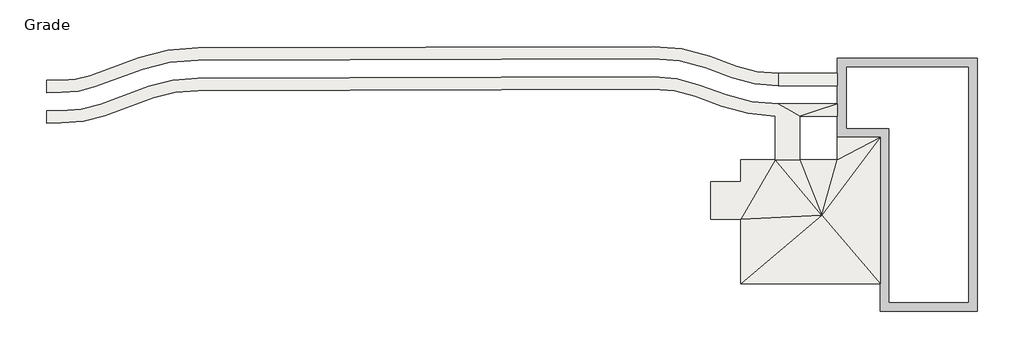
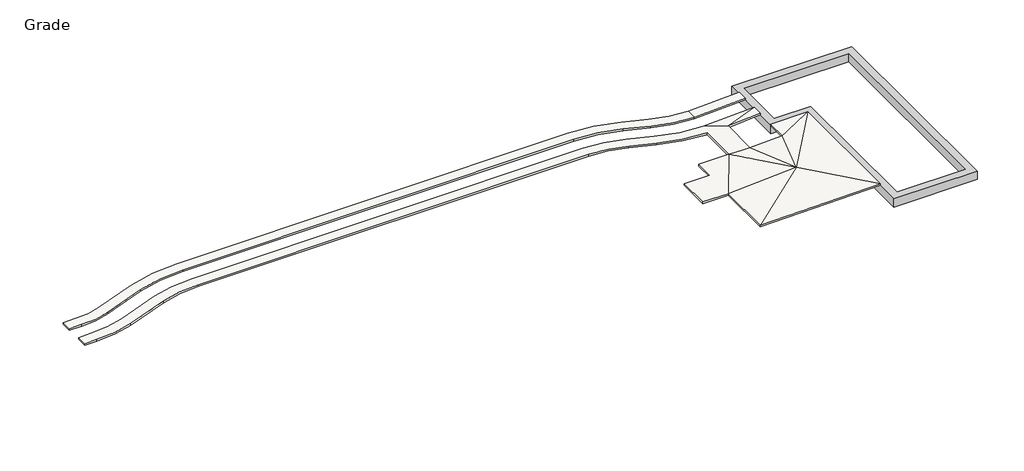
# One storey: 1 proxy, 1 slab.
"""IFC4 building model written with IfcOpenShell, lengths in millimetres."""

from ifc_helpers import new_model, si_unit, frame, origin, place, context, project, spatial, polyline, circle_curve, faceted_brep, element, save
from ifc_brep_helpers import plane_surface, cylinder_surface, revolved_surface, advanced_brep

model = new_model("IFC4")

# Units and contexts
model_context = context("Model", 3, world=origin())
ifc_project = project(units=[si_unit("LENGTHUNIT", "METRE", prefix="MILLI")], contexts=[model_context])

# Site, building, storey
site = spatial("IfcSite", under=ifc_project)
building = spatial("IfcBuilding", under=site)
storey = spatial("IfcBuildingStorey", under=building, Name="Grade", Elevation=-152.4)

# Proxy
placement = place(None, origin())
element("IfcBuildingElementProxy", 1, Name="New", ObjectType="New", at=placement, inside=storey, context=model_context, shape_type="Brep", body=[
    faceted_brep([(17362.5750833, 15955.0499284, -609.6), (10352.1750833, 15955.0499284, -609.6), (10352.1750833, 15955.0499284, -101.6), (17362.5750833, 15955.0499284, -101.6), (10809.3750833, 15497.8499284, -609.6), (16905.3750833, 15497.8499284, -609.6), (16905.3750833, 15497.8499284, -101.6), (10809.3750833, 15497.8499284, -101.6), (10352.1750833, 11992.6499284, -101.6), (12485.7750833, 11992.6499284, -101.6), (12485.7750833, 3280.4499284, -101.6), (17362.5750833, 3280.4499284, -101.6), (16905.3750833, 3737.6499284, -101.6), (12942.9750833, 3737.6499284, -101.6), (12942.9750833, 12449.8499284, -101.6), (10809.3750833, 12449.8499284, -101.6), (17362.5750833, 3280.4499284, -609.6), (16905.3750833, 3737.6499284, -609.6), (12485.7750833, 3280.4499284, -609.6), (12942.9750833, 3737.6499284, -609.6), (12485.7750833, 11992.6499284, -609.6), (12942.9750833, 12449.8499284, -609.6), (10352.1750833, 11992.6499284, -609.6), (10809.3750833, 12449.8499284, -609.6)], [[[0, 1, 2, 3]], [[4, 5, 6, 7]], [[0, 5, 4, 1]], [[3, 2, 8, 9, 10, 11], [7, 6, 12, 13, 14, 15]], [[16, 0, 3, 11]], [[5, 17, 12, 6]], [[5, 0, 16, 17]], [[18, 16, 11, 10]], [[17, 19, 13, 12]], [[17, 16, 18, 19]], [[20, 18, 10, 9]], [[19, 21, 14, 13]], [[19, 18, 20, 21]], [[22, 20, 9, 8]], [[21, 23, 15, 14]], [[21, 20, 22, 23]], [[1, 22, 8, 2]], [[23, 4, 7, 15]], [[23, 22, 1, 4]]]),
])

# Slab
element("IfcSlab", 2, ObjectType="Brick", at=placement, inside=storey, context=model_context, shape_type="AdvancedBrep", body=[
    advanced_brep(
    [(8464.7010833, 10866.5409284, -227.9904), (8464.7010833, 10866.5409284, -126.3904), (10345.8250833, 10866.5409284, -50.1904), (10345.8250833, 10866.5409284, -151.7904), (12485.7750833, 11992.6499284, -101.6), (12485.7750833, 11992.6499284, 0.0), (12485.7750833, 4667.5185284, 0.0), (12485.7750833, 4667.5185284, -101.6), (5499.9809408, 4667.5185284, -126.3904), (5499.9809408, 4667.5185284, -227.9904), (5499.9809408, 7899.8344171, -126.3904), (5499.9809408, 7899.8344171, -227.9904), (4015.6049408, 7899.8344171, -126.3904), (4015.6049408, 7899.8344171, -227.9904), (4015.6049408, 9766.7344171, -126.3904), (4015.6049408, 9766.7344171, -227.9904), (5499.9809408, 9766.7344171, -126.3904), (5499.9809408, 9766.7344171, -227.9904), (5499.9809408, 10866.5409284, -126.3904), (5499.9809408, 10866.5409284, -227.9904), (7245.5010833, 10866.5409284, -126.3904), (7245.5010833, 10866.5409284, -227.9904), (4560.69318, 13555.7555364, -227.9904), (4560.69318, 13555.7555364, -126.3904), (3227.5843071, 14040.9674851, -126.3904), (3227.5843071, 14040.9674851, -227.9904), (1123.669369, 14408.5717833, -126.3904), (1123.669369, 14408.5717833, -227.9904), (-21699.4882094, 14337.585488, -126.3904), (-21699.4882094, 14337.585488, -227.9904), (-23927.4227501, 13971.3443166, -126.3904), (-23927.4227501, 13971.3443166, -227.9904), (-26349.890257, 13086.1914593, -126.3904), (-26349.890257, 13086.1914593, -227.9904), (-28532.4140391, 12719.3385416, -126.3904), (-28532.4140391, 12719.3385416, -227.9904), (-28532.4140391, 13329.0253175, -227.9904), (-28532.4140391, 13329.0253175, -126.3904), (-26558.3857364, 13659.028081, -126.3904), (-26558.3857364, 13659.028081, -227.9904), (-24135.9184843, 14544.1811249, -126.3904), (-24135.9184843, 14544.1811249, -227.9904), (-21693.526179, 14947.2069801, -126.3904), (-21693.526179, 14947.2069801, -227.9904), (1121.7733546, 15018.1688347, -126.3904), (1121.7733546, 15018.1688347, -227.9904), (3436.0797865, 14613.8041068, -126.3904), (3436.0797865, 14613.8041068, -227.9904), (4769.1886594, 14128.592158, -126.3904), (4769.1886594, 14128.592158, -227.9904), (8464.7010833, 13059.4499284, -227.9904), (8464.7010833, 13059.4499284, -126.3904), (9567.5823666, 8100.9264999, -50.1904), (9567.5823666, 8100.9264999, -151.7904), (7245.5010833, 13060.4748958, -126.3904), (7245.5010833, 13060.4748958, -227.9904), (7375.3821515, 13669.0499284, -126.3904), (7375.3821515, 13669.0499284, -227.9904), (10352.1750833, 13669.0499284, -3.35915), (10352.1750833, 13669.0499284, -104.95915), (10352.1750833, 13059.4499284, -3.35915), (10352.1750833, 13059.4499284, -104.95915), (-29251.9330341, 13321.8860898, -126.3904), (-29245.8841816, 12712.2593319, -126.3904), (-29245.8841816, 12712.2593319, -227.9904), (-29251.9330341, 13321.8860898, -227.9904), (10345.8250833, 11992.6499284, -33.8193062), (10345.8250833, 11992.6499284, -135.4193062)],
    [
        (0, 1),
        (1, 2),
        (2, 3),
        (3, 0),
        (4, 5),
        (5, 6),
        (6, 7),
        (7, 4),
        (6, 8),
        (8, 9),
        (9, 7),
        (8, 10),
        (10, 11),
        (11, 9),
        (10, 12),
        (12, 13),
        (13, 11),
        (12, 14),
        (14, 15),
        (15, 13),
        (14, 16),
        (16, 17),
        (17, 15),
        (16, 18),
        (18, 19),
        (19, 17),
        (18, 20),
        (20, 21),
        (21, 19),
        (22, 23),
        (23, 24),
        (24, 25),
        (25, 22),
        (24, 26, circle_curve(frame((1142.6295134, 8312.6012688, -126.3904), z_axis=(0.0, 0.0, 1.0), x_axis=(1.0, 0.0, 0.0)), 6096.0)),
        (26, 27),
        (27, 25, circle_curve(frame((1142.6295134, 8312.6012688, -227.9904), z_axis=(0.0, 0.0, -1.0), x_axis=(1.0, 0.0, 0.0)), 6096.0)),
        (26, 28),
        (28, 29),
        (29, 27),
        (28, 30, circle_curve(frame((-21841.4516122, 8241.5278565, -126.3904), z_axis=(0.0, 0.0, 1.0), x_axis=(1.0, 0.0, 0.0)), 6097.7104109)),
        (30, 31),
        (31, 29, circle_curve(frame((-21841.4516122, 8241.5278565, -227.9904), z_axis=(0.0, 0.0, -1.0), x_axis=(1.0, 0.0, 0.0)), 6097.7104109)),
        (30, 32),
        (32, 33),
        (33, 31),
        (32, 34, circle_curve(frame((-28434.8450507, 18814.5576757, -126.3904), z_axis=(0.0, 0.0, -1.0), x_axis=(1.0, 0.0, 0.0)), 6096.0)),
        (34, 35),
        (35, 33, circle_curve(frame((-28434.8450507, 18814.5576757, -227.9904), z_axis=(0.0, 0.0, 1.0), x_axis=(1.0, 0.0, 0.0)), 6096.0)),
        (36, 37),
        (37, 38, circle_curve(frame((-28434.8450507, 18814.5576757, -126.3904), z_axis=(0.0, 0.0, 1.0), x_axis=(1.0, 0.0, 0.0)), 5486.4)),
        (38, 39),
        (39, 36, circle_curve(frame((-28434.8450507, 18814.5576757, -227.9904), z_axis=(0.0, 0.0, -1.0), x_axis=(1.0, 0.0, 0.0)), 5486.4)),
        (38, 40),
        (40, 41),
        (41, 39),
        (40, 42, circle_curve(frame((-21841.4520296, 8241.5278972, -126.3904), z_axis=(0.0, 0.0, -1.0), x_axis=(1.0, 0.0, 0.0)), 6707.3104908)),
        (42, 43),
        (43, 41, circle_curve(frame((-21841.4520296, 8241.5278972, -227.9904), z_axis=(0.0, 0.0, 1.0), x_axis=(1.0, 0.0, 0.0)), 6707.3104908)),
        (42, 44),
        (44, 45),
        (45, 43),
        (44, 46, circle_curve(frame((1142.6295134, 8312.6012688, -126.3904), z_axis=(0.0, 0.0, -1.0), x_axis=(1.0, 0.0, 0.0)), 6705.6)),
        (46, 47),
        (47, 45, circle_curve(frame((1142.6295134, 8312.6012688, -227.9904), z_axis=(0.0, 0.0, 1.0), x_axis=(1.0, 0.0, 0.0)), 6705.6)),
        (46, 48),
        (48, 49),
        (49, 47),
        (50, 51),
        (51, 1),
        (0, 50),
        (8, 52),
        (52, 10),
        (11, 53),
        (53, 9),
        (20, 54),
        (54, 55),
        (55, 21),
        (54, 23, circle_curve(frame((7375.3821515, 21289.0499284, -126.3904), z_axis=(0.0, 0.0, -1.0), x_axis=(1.0, 0.0, 0.0)), 8229.6)),
        (22, 55, circle_curve(frame((7375.3821515, 21289.0499284, -227.9904), z_axis=(0.0, 0.0, 1.0), x_axis=(1.0, 0.0, 0.0)), 8229.6)),
        (48, 56, circle_curve(frame((7375.3821515, 21289.0499284, -126.3904), z_axis=(0.0, 0.0, 1.0), x_axis=(1.0, 0.0, 0.0)), 7620.0)),
        (56, 57),
        (57, 49, circle_curve(frame((7375.3821515, 21289.0499284, -227.9904), z_axis=(0.0, 0.0, -1.0), x_axis=(1.0, 0.0, 0.0)), 7620.0)),
        (56, 58),
        (58, 59),
        (59, 57),
        (58, 60),
        (60, 61),
        (61, 59),
        (60, 51),
        (50, 61),
        (37, 62),
        (62, 63),
        (63, 34),
        (20, 1),
        (51, 56),
        (57, 50),
        (0, 21),
        (35, 64),
        (64, 65),
        (65, 36),
        (58, 51),
        (50, 59),
        (63, 64),
        (62, 65),
        (2, 66),
        (66, 67),
        (67, 3),
        (66, 5),
        (4, 67),
        (2, 5),
        (4, 3),
        (10, 20),
        (20, 52),
        (52, 1),
        (2, 52),
        (52, 5),
        (21, 11),
        (0, 53),
        (53, 21),
        (4, 53),
        (53, 3),
        (6, 52),
        (53, 7),
    ],
    [
        plane_surface(frame((8464.7010833, 10866.5409284, -227.9904), z_axis=(0.0, 1.0, 0.0), x_axis=(0.0, 0.0, 1.0))),
        plane_surface(frame((12485.7750833, 11992.6499284, -227.9904), z_axis=(1.0, 0.0, 0.0), x_axis=(0.0, 0.0, 1.0))),
        plane_surface(frame((12485.7750833, 4667.5185284, -227.9904), z_axis=(0.0, -1.0, 0.0), x_axis=(0.0, 0.0, 1.0))),
        plane_surface(frame((5499.9809408, 4667.5185284, -227.9904), z_axis=(-1.0, 0.0, 0.0), x_axis=(0.0, 0.0, 1.0))),
        plane_surface(frame((5499.9809408, 7899.8344171, -227.9904), z_axis=(0.0, -1.0, 0.0), x_axis=(0.0, 0.0, 1.0))),
        plane_surface(frame((4015.6049408, 7899.8344171, -227.9904), z_axis=(-1.0, 0.0, 0.0), x_axis=(0.0, 0.0, 1.0))),
        plane_surface(frame((4015.6049408, 9766.7344171, -227.9904), z_axis=(0.0, 1.0, 0.0), x_axis=(0.0, 0.0, 1.0))),
        plane_surface(frame((5499.9809408, 9766.7344171, -227.9904), z_axis=(-1.0, 0.0, 0.0), x_axis=(0.0, 0.0, 1.0))),
        plane_surface(frame((5499.9809408, 10866.5409284, -227.9904), z_axis=(0.0, 1.0, 0.0), x_axis=(0.0, 0.0, 1.0))),
        plane_surface(frame((4560.69318, 13555.7555364, -227.9904), z_axis=(-0.34202014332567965, -0.9396926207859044, 0.0), x_axis=(0.0, 0.0, 1.0))),
        revolved_surface(polyline([(7238.6295134, 8312.6012688, -126.3904), (7238.6295134, 8312.6012688, -227.9904)]), (1142.6295134, 8312.6012688, -126.3904), (0.0, 0.0, 1.0)),
        plane_surface(frame((1123.669369, 14408.5717833, -227.9904), z_axis=(0.003110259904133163, -0.9999951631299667, 0.0), x_axis=(0.0, 0.0, 1.0))),
        revolved_surface(polyline([(-15743.7412013, 8241.5278565, -126.3904), (-15743.7412013, 8241.5278565, -227.9904)]), (-21841.4516122, 8241.5278565, -126.3904), (0.0, 0.0, 1.0)),
        plane_surface(frame((-23927.4227501, 13971.3443166, -227.9904), z_axis=(0.3431999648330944, -0.939262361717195, 0.0), x_axis=(0.0, 0.0, 1.0))),
        cylinder_surface(frame((-28434.8450507, 18814.5576757, -126.3904), z_axis=(0.0, 0.0, -1.0), x_axis=(1.0, 0.0, 0.0)), 6096.0),
        revolved_surface(polyline([(-22948.4450507, 18814.5576757, -126.3904), (-22948.4450507, 18814.5576757, -227.9904)]), (-28434.8450507, 18814.5576757, -126.3904), (0.0, 0.0, 1.0)),
        plane_surface(frame((-26558.3857364, 13659.028081, -227.9904), z_axis=(-0.343200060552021, 0.9392623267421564, 0.0), x_axis=(0.0, 0.0, 1.0))),
        cylinder_surface(frame((-21841.4520296, 8241.5278972, -126.3904), z_axis=(0.0, 0.0, -1.0), x_axis=(1.0, 0.0, 0.0)), 6707.3104908),
        plane_surface(frame((-21693.526179, 14947.2069801, -227.9904), z_axis=(-0.003110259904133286, 0.9999951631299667, 0.0), x_axis=(0.0, 0.0, 1.0))),
        cylinder_surface(frame((1142.6295134, 8312.6012688, -126.3904), z_axis=(0.0, 0.0, -1.0), x_axis=(1.0, 0.0, 0.0)), 6705.6),
        plane_surface(frame((3436.0797865, 14613.8041068, -227.9904), z_axis=(0.34202014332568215, 0.9396926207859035, 0.0), x_axis=(0.0, 0.0, 1.0))),
        plane_surface(frame((8464.7010833, 13059.4499284, -227.9904), z_axis=(1.0, 0.0, 0.0), x_axis=(0.0, 0.0, 1.0))),
        plane_surface(frame((6855.8480827, 6889.4264818, -100.9904), z_axis=(-0.01873011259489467, 0.0, 0.999824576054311), x_axis=(0.0, -1.0, 0.0))),
        plane_surface(frame((6855.8480827, 6889.4264818, -202.5904), z_axis=(0.01873011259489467, 0.0, -0.999824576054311), x_axis=(0.0, -1.0, 0.0))),
        plane_surface(frame((7245.5010833, 10866.5409284, -227.9904), z_axis=(-1.0, 0.0, 0.0), x_axis=(0.0, 0.0, 1.0))),
        cylinder_surface(frame((7375.3821515, 21289.0499284, -126.3904), z_axis=(0.0, 0.0, -1.0), x_axis=(1.0, 0.0, 0.0)), 8229.6),
        revolved_surface(polyline([(14995.3821515, 21289.0499284, -126.3904), (14995.3821515, 21289.0499284, -227.9904)]), (7375.3821515, 21289.0499284, -126.3904), (0.0, 0.0, 1.0)),
        plane_surface(frame((7375.3821515, 13669.0499284, -227.9904), z_axis=(0.0, 1.0, 0.0), x_axis=(0.0, 0.0, 1.0))),
        plane_surface(frame((10352.1750833, 13669.0499284, -227.9904), z_axis=(1.0, 0.0, 0.0), x_axis=(0.0, 0.0, 1.0))),
        plane_surface(frame((10352.1750833, 13059.4499284, -227.9904), z_axis=(0.0, -1.0, 0.0), x_axis=(0.0, 0.0, 1.0))),
        plane_surface(frame((-9661.5477033, 13519.8077735, -126.3904), z_axis=(0.0, 0.0, 1.0), x_axis=(1.0, 0.0, 0.0))),
        plane_surface(frame((-9661.5477033, 13519.8077735, -227.9904), z_axis=(0.0, 0.0, -1.0), x_axis=(1.0, 0.0, 0.0))),
        plane_surface(frame((9723.0170833, 13262.6499284, -44.3695667), z_axis=(-0.06504498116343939, 0.0, 0.997882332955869), x_axis=(0.997882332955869, 0.0, 0.06504498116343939))),
        plane_surface(frame((8730.7527727, 13465.8499284, -85.3799833), z_axis=(-0.041182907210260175, -0.07359140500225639, 0.9964377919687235), x_axis=(0.949774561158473, 0.30674995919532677, 0.06190917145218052))),
        plane_surface(frame((9723.0170833, 13262.6499284, -145.9695667), z_axis=(0.06504498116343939, 0.0, -0.997882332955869), x_axis=(0.997882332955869, 0.0, 0.06504498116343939))),
        plane_surface(frame((8730.7527727, 13465.8499284, -186.9799833), z_axis=(0.041182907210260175, 0.07359140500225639, -0.9964377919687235), x_axis=(0.949774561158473, 0.30674995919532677, 0.06190917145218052))),
        plane_surface(frame((-28532.4140391, 12719.3385416, -227.9904), z_axis=(0.009921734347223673, -0.9999507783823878, 0.0), x_axis=(0.0, 0.0, 1.0))),
        plane_surface(frame((-29245.8841816, 12712.2593319, -227.9904), z_axis=(-0.9999507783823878, -0.009921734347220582, 0.0), x_axis=(0.0, 0.0, 1.0))),
        plane_surface(frame((-29251.9330341, 13321.8860898, -227.9904), z_axis=(-0.009921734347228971, 0.9999507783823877, 0.0), x_axis=(0.0, 0.0, 1.0))),
        plane_surface(frame((10345.8250833, 10866.5409284, -227.9904), z_axis=(-1.0, 0.0, 0.0), x_axis=(0.0, 0.0, 1.0))),
        plane_surface(frame((10345.8250833, 11992.6499284, -227.9904), z_axis=(0.0, 1.0, 0.0), x_axis=(0.0, 0.0, 1.0))),
        plane_surface(frame((11059.1417499, 11617.2802617, -28.0032354), z_axis=(-0.01580014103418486, -0.014534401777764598, 0.9997695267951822), x_axis=(-0.9998751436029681, 0.0, -0.01580181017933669))),
        plane_surface(frame((11059.1417499, 11617.2802617, -129.6032354), z_axis=(0.01580014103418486, 0.014534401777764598, -0.9997695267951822), x_axis=(-0.9998751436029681, 0.0, -0.01580181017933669))),
        plane_surface(frame((5296.1089646, 9511.0365875, -126.3904), z_axis=(0.0, 0.0, 1.0), x_axis=(0.0, -1.0, 0.0))),
        plane_surface(frame((8425.9281777, 9944.6694522, -100.9904), z_axis=(0.0, 0.027542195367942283, 0.9996206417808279), x_axis=(-1.0, 0.0, 0.0))),
        plane_surface(frame((7437.6881302, 8955.7672818, -100.9904), z_axis=(-0.01928979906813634, 0.011349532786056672, 0.9997495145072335), x_axis=(0.9986054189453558, 0.04936856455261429, 0.018707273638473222))),
        plane_surface(frame((10799.727511, 10320.0391189, -33.4602667), z_axis=(-0.027519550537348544, 0.007743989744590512, 0.9995912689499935), x_axis=(-0.8847584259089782, -0.46558771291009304, -0.020751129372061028))),
        plane_surface(frame((5296.1089646, 9511.0365875, -227.9904), z_axis=(0.0, 0.0, -1.0), x_axis=(0.0, -1.0, 0.0))),
        plane_surface(frame((8425.9281777, 9944.6694522, -202.5904), z_axis=(0.0, -0.027542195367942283, -0.9996206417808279), x_axis=(-1.0, 0.0, 0.0))),
        plane_surface(frame((7437.6881302, 8955.7672818, -202.5904), z_axis=(0.01928979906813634, -0.011349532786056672, -0.9997495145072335), x_axis=(0.9986054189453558, 0.04936856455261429, 0.018707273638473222))),
        plane_surface(frame((10799.727511, 10320.0391189, -135.0602667), z_axis=(0.027519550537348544, -0.007743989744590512, -0.9995912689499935), x_axis=(-0.8847584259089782, -0.46558771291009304, -0.020751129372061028))),
        plane_surface(frame((9459.369511, 9944.6694522, -75.5904), z_axis=(-0.0404718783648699, 0.011388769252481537, 0.9991157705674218), x_axis=(0.3702950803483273, -0.9285617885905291, 0.025584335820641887))),
        plane_surface(frame((9459.369511, 9944.6694522, -177.1904), z_axis=(0.0404718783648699, -0.011388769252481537, -0.9991157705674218), x_axis=(0.3702950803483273, -0.9285617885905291, 0.025584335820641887))),
        plane_surface(frame((9184.4461302, 5811.9878522, -58.8602667), z_axis=(-0.018089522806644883, -0.0007591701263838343, 0.9998360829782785), x_axis=(0.9998363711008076, 0.0, 0.018089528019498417))),
        plane_surface(frame((11513.0441777, 8253.6983189, -16.7301333), z_axis=(-0.017196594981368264, 0.0, 0.9998521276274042), x_axis=(0.0, 1.0, 0.0))),
        plane_surface(frame((9184.4461302, 5811.9878522, -160.4602667), z_axis=(0.018089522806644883, 0.0007591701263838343, -0.9998360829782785), x_axis=(0.9998363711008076, 0.0, 0.018089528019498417))),
        plane_surface(frame((11513.0441777, 8253.6983189, -118.3301333), z_axis=(0.017196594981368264, 0.0, -0.9998521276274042), x_axis=(0.0, 1.0, 0.0))),
    ],
    [
        (0, [[1, 2, 3, 4]]),
        (1, [[5, 6, 7, 8]]),
        (2, [[-7, 9, 10, 11]]),
        (3, [[-10, 12, 13, 14]]),
        (4, [[-13, 15, 16, 17]]),
        (5, [[-16, 18, 19, 20]]),
        (6, [[-19, 21, 22, 23]]),
        (7, [[-22, 24, 25, 26]]),
        (8, [[-25, 27, 28, 29]]),
        (9, [[30, 31, 32, 33]]),
        (10, [[-32, 34, 35, 36]]),
        (11, [[-35, 37, 38, 39]]),
        (12, [[-38, 40, 41, 42]]),
        (13, [[-41, 43, 44, 45]]),
        (14, [[-44, 46, 47, 48]]),
        (15, [[49, 50, 51, 52]]),
        (16, [[-51, 53, 54, 55]]),
        (17, [[-54, 56, 57, 58]]),
        (18, [[-57, 59, 60, 61]]),
        (19, [[-60, 62, 63, 64]]),
        (20, [[-63, 65, 66, 67]]),
        (21, [[68, 69, -1, 70]]),
        (22, [[-12, 71, 72]]),
        (23, [[73, 74, -14]]),
        (24, [[-28, 75, 76, 77]]),
        (25, [[-76, 78, -30, 79]]),
        (26, [[-66, 80, 81, 82]]),
        (27, [[-81, 83, 84, 85]]),
        (28, [[-84, 86, 87, 88]]),
        (29, [[-87, 89, -68, 90]]),
        (30, [[-62, -59, -56, -53, -50, 91, 92, 93, -46, -43, -40, -37, -34, -31, -78, -75, 94, -69, 95, -80, -65]]),
        (31, [[-67, -82, 96, -70, 97, -77, -79, -33, -36, -39, -42, -45, -48, 98, 99, 100, -52, -55, -58, -61, -64]]),
        (32, [[-89, -86, 101]]),
        (33, [[-101, -83, -95]]),
        (34, [[102, -88, -90]]),
        (35, [[-96, -85, -102]]),
        (36, [[-47, -93, 103, -98]]),
        (37, [[-103, -92, 104, -99]]),
        (38, [[-104, -91, -49, -100]]),
        (39, [[-3, 105, 106, 107]]),
        (40, [[-106, 108, -5, 109]]),
        (41, [[-108, -105, 110]]),
        (42, [[111, -107, -109]]),
        (43, [[-24, -21, -18, -15, 112, -27]]),
        (44, [[-94, 113, 114]]),
        (45, [[-72, -113, -112]]),
        (46, [[-110, 115, 116]]),
        (47, [[-29, 117, -17, -20, -23, -26]]),
        (48, [[118, 119, -97]]),
        (49, [[-117, -119, -73]]),
        (50, [[120, 121, -111]]),
        (51, [[-114, -115, -2]]),
        (52, [[-4, -121, -118]]),
        (53, [[-9, 122, -71]]),
        (54, [[-6, -116, -122]]),
        (55, [[-74, 123, -11]]),
        (56, [[-123, -120, -8]]),
    ],
),
    advanced_brep(
    [(10352.1750833, 15193.0499284, -104.95915), (10352.1750833, 15193.0499284, -3.35915), (10352.1750833, 14583.4499284, -3.35915), (10352.1750833, 14583.4499284, -104.95915), (1117.0333185, 16542.1614633, -227.9904), (1117.0333185, 16542.1614633, -126.3904), (3957.3184849, 16045.8956609, -126.3904), (3957.3184849, 16045.8956609, -227.9904), (5290.4273578, 15560.6837121, -126.3904), (5290.4273578, 15560.6837121, -227.9904), (5081.9318784, 14987.8470905, -227.9904), (5081.9318784, 14987.8470905, -126.3904), (3748.8230056, 15473.0590392, -126.3904), (3748.8230056, 15473.0590392, -227.9904), (1118.9293329, 15932.5644119, -126.3904), (1118.9293329, 15932.5644119, -227.9904), (-21685.2251114, 15861.6372216, -126.3904), (-21685.2251114, 15861.6372216, -227.9904), (-24448.6620271, 15403.4362932, -126.3904), (-24448.6620271, 15403.4362932, -227.9904), (-26871.1289554, 14518.2830134, -126.3904), (-26871.1289554, 14518.2830134, -227.9904), (-28532.4140391, 14243.5988821, -126.3904), (-28532.4140391, 14243.5988821, -227.9904), (-28532.4140391, 14853.359113, -227.9904), (-28532.4140391, 14853.359113, -126.3904), (-27079.6244348, 15091.1196351, -126.3904), (-27079.6244348, 15091.1196351, -227.9904), (-24657.157692, 15976.2730492, -126.3904), (-24657.157692, 15976.2730492, -227.9904), (-21680.0595525, 16471.2562365, -126.3904), (-21680.0595525, 16471.2562365, -227.9904), (-29267.085881, 14846.0695354, -126.3904), (-29261.0362998, 14236.3693297, -126.3904), (7375.3821515, 14583.4499284, -126.3904), (7375.3821515, 15193.0499284, -126.3904), (7375.3821515, 15193.0499284, -227.9904), (7375.3821515, 14583.4499284, -227.9904), (-29261.0362998, 14236.3693297, -227.9904), (-29267.085881, 14846.0695354, -227.9904)],
    [
        (0, 1),
        (1, 2),
        (2, 3),
        (3, 0),
        (4, 5),
        (5, 6, circle_curve(frame((1142.6295134, 8312.6012688, -126.3904), z_axis=(0.0, 0.0, -1.0), x_axis=(1.0, 0.0, 0.0)), 8229.6)),
        (6, 7),
        (7, 4, circle_curve(frame((1142.6295134, 8312.6012688, -227.9904), z_axis=(0.0, 0.0, 1.0), x_axis=(1.0, 0.0, 0.0)), 8229.6)),
        (6, 8),
        (8, 9),
        (9, 7),
        (10, 11),
        (11, 12),
        (12, 13),
        (13, 10),
        (12, 14, circle_curve(frame((1142.6295134, 8312.6012688, -126.3904), z_axis=(0.0, 0.0, 1.0), x_axis=(1.0, 0.0, 0.0)), 7620.0)),
        (14, 15),
        (15, 13, circle_curve(frame((1142.6295134, 8312.6012688, -227.9904), z_axis=(0.0, 0.0, -1.0), x_axis=(1.0, 0.0, 0.0)), 7620.0)),
        (14, 16),
        (16, 17),
        (17, 15),
        (16, 18, circle_curve(frame((-21841.452559, 8241.5279488, -126.3904), z_axis=(0.0, 0.0, 1.0), x_axis=(1.0, 0.0, 0.0)), 7621.7105918)),
        (18, 19),
        (19, 17, circle_curve(frame((-21841.452559, 8241.5279488, -227.9904), z_axis=(0.0, 0.0, -1.0), x_axis=(1.0, 0.0, 0.0)), 7621.7105918)),
        (18, 20),
        (20, 21),
        (21, 19),
        (20, 22, circle_curve(frame((-28434.8450507, 18814.5576757, -126.3904), z_axis=(0.0, 0.0, -1.0), x_axis=(1.0, 0.0, 0.0)), 4572.0)),
        (22, 23),
        (23, 21, circle_curve(frame((-28434.8450507, 18814.5576757, -227.9904), z_axis=(0.0, 0.0, 1.0), x_axis=(1.0, 0.0, 0.0)), 4572.0)),
        (24, 25),
        (25, 26, circle_curve(frame((-28434.8450507, 18814.5576757, -126.3904), z_axis=(0.0, 0.0, 1.0), x_axis=(1.0, 0.0, 0.0)), 3962.4)),
        (26, 27),
        (27, 24, circle_curve(frame((-28434.8450507, 18814.5576757, -227.9904), z_axis=(0.0, 0.0, -1.0), x_axis=(1.0, 0.0, 0.0)), 3962.4)),
        (26, 28),
        (28, 29),
        (29, 27),
        (28, 30, circle_curve(frame((-21841.4528617, 8241.5279782, -126.3904), z_axis=(0.0, 0.0, -1.0), x_axis=(1.0, 0.0, 0.0)), 8231.3106493)),
        (30, 31),
        (31, 29, circle_curve(frame((-21841.4528617, 8241.5279782, -227.9904), z_axis=(0.0, 0.0, 1.0), x_axis=(1.0, 0.0, 0.0)), 8231.3106493)),
        (30, 5),
        (4, 31),
        (25, 32),
        (32, 33),
        (33, 22),
        (11, 34, circle_curve(frame((7375.3821515, 21289.0499284, -126.3904), z_axis=(0.0, 0.0, 1.0), x_axis=(1.0, 0.0, 0.0)), 6705.6)),
        (34, 35),
        (35, 8, circle_curve(frame((7375.3821515, 21289.0499284, -126.3904), z_axis=(0.0, 0.0, -1.0), x_axis=(1.0, 0.0, 0.0)), 6096.0)),
        (9, 36, circle_curve(frame((7375.3821515, 21289.0499284, -227.9904), z_axis=(0.0, 0.0, 1.0), x_axis=(1.0, 0.0, 0.0)), 6096.0)),
        (36, 37),
        (37, 10, circle_curve(frame((7375.3821515, 21289.0499284, -227.9904), z_axis=(0.0, 0.0, -1.0), x_axis=(1.0, 0.0, 0.0)), 6705.6)),
        (23, 38),
        (38, 39),
        (39, 24),
        (35, 36),
        (35, 1),
        (0, 36),
        (2, 34),
        (34, 37),
        (37, 3),
        (33, 38),
        (32, 39),
    ],
    [
        plane_surface(frame((10352.1750833, 15193.0499284, -227.9904), z_axis=(1.0, 0.0, 0.0), x_axis=(0.0, 0.0, 1.0))),
        cylinder_surface(frame((1142.6295134, 8312.6012688, -152.4), z_axis=(0.0, 0.0, -1.0), x_axis=(1.0, 0.0, 0.0)), 8229.6),
        plane_surface(frame((3957.3184849, 16045.8956609, -227.9904), z_axis=(0.3420201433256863, 0.9396926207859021, 0.0), x_axis=(0.0, 0.0, 1.0))),
        plane_surface(frame((5081.9318784, 14987.8470905, -227.9904), z_axis=(-0.34202014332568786, -0.9396926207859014, 0.0), x_axis=(0.0, 0.0, 1.0))),
        revolved_surface(polyline([(8762.6295134, 8312.6012688, -126.3904), (8762.6295134, 8312.6012688, -227.9904)]), (1142.6295134, 8312.6012688, -152.4), (0.0, 0.0, 1.0)),
        plane_surface(frame((1118.9293329, 15932.5644119, -227.9904), z_axis=(0.0031102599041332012, -0.9999951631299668, 0.0), x_axis=(0.0, 0.0, 1.0))),
        revolved_surface(polyline([(-14219.741967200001, 8241.5279488, -126.3904), (-14219.741967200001, 8241.5279488, -227.9904)]), (-21841.452559, 8241.5279488, -152.4), (0.0, 0.0, 1.0)),
        plane_surface(frame((-24448.6620271, 15403.4362932, -227.9904), z_axis=(0.3432001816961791, -0.9392622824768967, 0.0), x_axis=(0.0, 0.0, 1.0))),
        cylinder_surface(frame((-28434.8450507, 18814.5576757, -152.4), z_axis=(0.0, 0.0, -1.0), x_axis=(1.0, 0.0, 0.0)), 4572.0),
        revolved_surface(polyline([(-24472.4450507, 18814.5576757, -126.3904), (-24472.4450507, 18814.5576757, -227.9904)]), (-28434.8450507, 18814.5576757, -152.4), (0.0, 0.0, 1.0)),
        plane_surface(frame((-27079.6244348, 15091.1196351, -227.9904), z_axis=(-0.3432002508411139, 0.9392622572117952, 0.0), x_axis=(0.0, 0.0, 1.0))),
        cylinder_surface(frame((-21841.4528617, 8241.5279782, -152.4), z_axis=(0.0, 0.0, -1.0), x_axis=(1.0, 0.0, 0.0)), 8231.3106493),
        plane_surface(frame((-21680.0595525, 16471.2562365, -227.9904), z_axis=(-0.0031102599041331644, 0.9999951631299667, 0.0), x_axis=(0.0, 0.0, 1.0))),
        plane_surface(frame((-12608.3100195, 15323.3396413, -126.3904), z_axis=(0.0, 0.0, 1.0), x_axis=(1.0, 0.0, 0.0))),
        plane_surface(frame((-12608.3100195, 15323.3396413, -227.9904), z_axis=(0.0, 0.0, -1.0), x_axis=(1.0, 0.0, 0.0))),
        revolved_surface(polyline([(13471.3821515, 21289.0499284, -126.3904), (13471.3821515, 21289.0499284, -227.9904)]), (7375.3821515, 21289.0499284, -152.4), (0.0, 0.0, 1.0)),
        plane_surface(frame((7375.3821515, 15193.0499284, -227.9904), z_axis=(0.0, 1.0, 0.0), x_axis=(0.0, 0.0, 1.0))),
        plane_surface(frame((10352.1750833, 14583.4499284, -227.9904), z_axis=(0.0, -1.0, 0.0), x_axis=(0.0, 0.0, 1.0))),
        cylinder_surface(frame((7375.3821515, 21289.0499284, -152.4), z_axis=(0.0, 0.0, -1.0), x_axis=(1.0, 0.0, 0.0)), 6705.6),
        plane_surface(frame((8863.7786174, 14888.2499284, -64.874775), z_axis=(-0.041294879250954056, 0.0, 0.9991470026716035), x_axis=(0.9991470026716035, 0.0, 0.041294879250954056))),
        plane_surface(frame((8863.7786174, 14888.2499284, -166.474775), z_axis=(0.041294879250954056, 0.0, -0.9991470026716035), x_axis=(0.9991470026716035, 0.0, 0.041294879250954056))),
        plane_surface(frame((-28532.4140391, 14243.5988821, -227.9904), z_axis=(0.00992173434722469, -0.9999507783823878, 0.0), x_axis=(0.0, 0.0, 1.0))),
        plane_surface(frame((-29261.0362998, 14236.3693297, -227.9904), z_axis=(-0.9999507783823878, -0.009921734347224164, 0.0), x_axis=(0.0, 0.0, 1.0))),
        plane_surface(frame((-29267.085881, 14846.0695354, -227.9904), z_axis=(-0.009921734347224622, 0.9999507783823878, 0.0), x_axis=(0.0, 0.0, 1.0))),
    ],
    [
        (0, [[1, 2, 3, 4]]),
        (1, [[5, 6, 7, 8]]),
        (2, [[-7, 9, 10, 11]]),
        (3, [[12, 13, 14, 15]]),
        (4, [[-14, 16, 17, 18]]),
        (5, [[-17, 19, 20, 21]]),
        (6, [[-20, 22, 23, 24]]),
        (7, [[-23, 25, 26, 27]]),
        (8, [[-26, 28, 29, 30]]),
        (9, [[31, 32, 33, 34]]),
        (10, [[-33, 35, 36, 37]]),
        (11, [[-36, 38, 39, 40]]),
        (12, [[-39, 41, -5, 42]]),
        (13, [[-6, -41, -38, -35, -32, 43, 44, 45, -28, -25, -22, -19, -16, -13, 46, 47, 48, -9]]),
        (14, [[-11, 49, 50, 51, -15, -18, -21, -24, -27, -30, 52, 53, 54, -34, -37, -40, -42, -8]]),
        (15, [[-10, -48, 55, -49]]),
        (16, [[-55, 56, -1, 57]]),
        (17, [[-3, 58, 59, 60]]),
        (18, [[-59, -46, -12, -51]]),
        (19, [[-58, -2, -56, -47]]),
        (20, [[-50, -57, -4, -60]]),
        (21, [[-29, -45, 61, -52]]),
        (22, [[-61, -44, 62, -53]]),
        (23, [[-62, -43, -31, -54]]),
    ],
),
])

save(model, "model.ifc")
